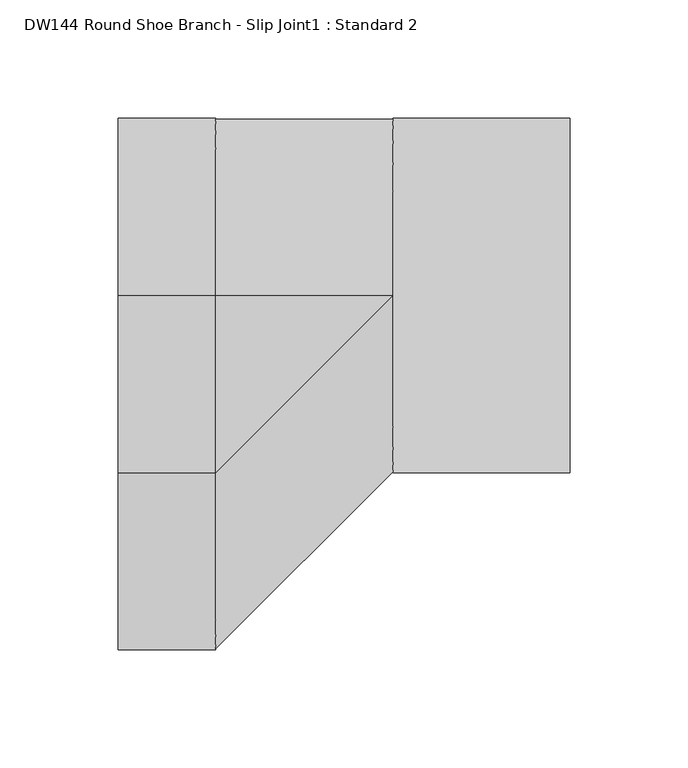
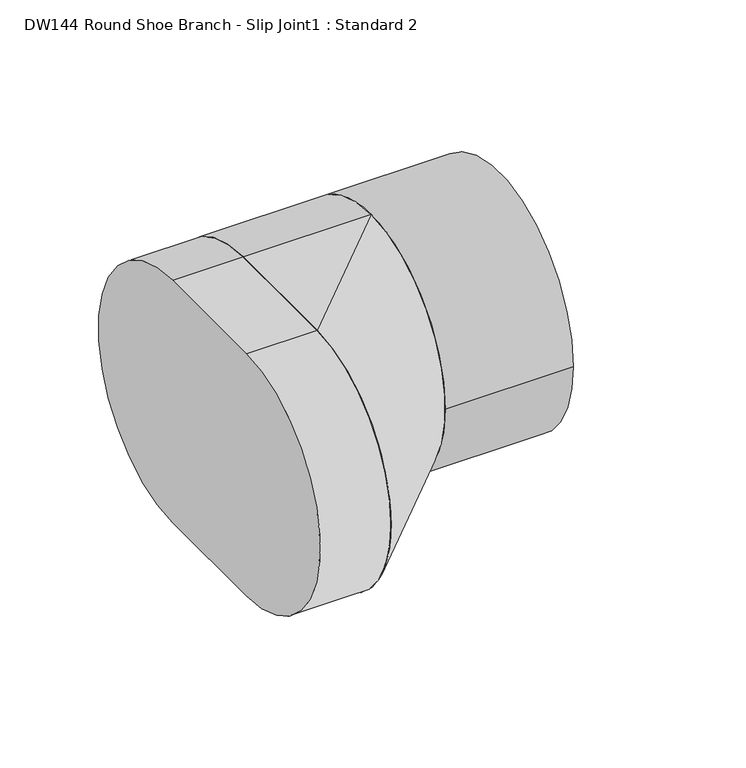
"""IFC4 building model written with IfcOpenShell, lengths in millimetres: duct fitting geometry, DW144 Round Shoe Branch - Slip Joint1 : Standard 2."""

from ifc_helpers import new_model, si_unit, point, frame, frame_2d, origin, origin_2d, place, context, project, spatial, polyline, circle_curve, trimmed, segment, composite_curve, outline, extrude, source, transform, mapped, element, save
from ifc_brep_helpers import plane_surface, cylinder_surface, extruded_surface, advanced_brep


def dw144_round_shoe_branch_slip_joint1_standard_2_5e7ec79a(model_context):
    return source(origin(), model_context, "Body", "SolidModel", [
        extrude(outline(composite_curve([segment(trimmed(circle_curve(origin_2d(), 75.0), [point((-75.0, 0.0))], [point((75.0, 0.0))], False, "CARTESIAN"), True, "CONTINUOUS"), segment(trimmed(circle_curve(origin_2d(), 75.0), [point((75.0, 0.0))], [point((-75.0, 0.0))], False, "CARTESIAN"), True, "CONTINUOUS")], self_intersect=False)), frame((75.0, 0.0, 0.0), z_axis=(1.0, 0.0, 0.0), x_axis=(0.0, 1.0, 0.0)), (0.0, 0.0, 1.0), 75.0),
        advanced_brep(
        [(75.0, 0.0, -75.0), (75.0, 0.0, 75.0), (0.0, 0.0, -75.0), (0.0, -75.0, -75.0), (0.0, -75.0, 75.0), (0.0, 0.0, 75.0)],
        [
            (0, 1, circle_curve(frame((75.0, 0.0, 0.0), z_axis=(1.0, 0.0, 0.0), x_axis=(0.0, 1.0, 0.0)), 75.0)),
            (1, 0, circle_curve(frame((75.0, 0.0, 0.0), z_axis=(1.0, 0.0, 0.0), x_axis=(0.0, 1.0, 0.0)), 75.0)),
            (2, 3),
            (3, 4, circle_curve(frame((0.0, -75.0, 0.0), z_axis=(-1.0, 0.0, 0.0), x_axis=(0.0, 1.0, 0.0)), 75.0)),
            (4, 5),
            (5, 2, circle_curve(frame((0.0, 0.0, 0.0), z_axis=(-1.0, 0.0, 0.0), x_axis=(0.0, 1.0, 0.0)), 75.0)),
            (5, 1),
            (0, 2),
            (4, 1),
            (3, 0),
        ],
        [
            plane_surface(frame((75.0, 0.0, 0.0), z_axis=(1.0, 0.0, 0.0), x_axis=(0.0, 1.0, 0.0))),
            plane_surface(frame((0.0, -37.5, 0.0), z_axis=(-1.0, 0.0, 0.0), x_axis=(0.0, 1.0, 0.0))),
            cylinder_surface(frame((0.0, 0.0, 0.0), z_axis=(1.0, 0.0, 0.0), x_axis=(0.0, 1.0, 0.0)), 75.0),
            plane_surface(frame((0.0, -37.5, 75.0), z_axis=(0.0, 0.0, 1.0), x_axis=(0.0, -1.0, 0.0))),
            extruded_surface(trimmed(circle_curve(frame((0.0, -75.0, 0.0), z_axis=(1.0, 0.0, 0.0), x_axis=(0.0, 1.0, 0.0)), 75.0), [point((0.0, -75.0, 75.0))], [point((0.0, -75.0, -75.0))], True, "CARTESIAN"), (75.0, 75.0, 0.0), 106.06601717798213),
            plane_surface(frame((0.0, -37.5, -75.0), z_axis=(0.0, 0.0, -1.0), x_axis=(0.0, 1.0, 0.0))),
        ],
        [
            (0, [[1, 2]]),
            (1, [[3, 4, 5, 6]]),
            (2, [[-6, 7, -1, 8]]),
            (3, [[-5, 9, -7]]),
            (4, [[-4, 10, -2, -9]]),
            (5, [[-3, -8, -10]]),
        ],
    ),
        extrude(outline(composite_curve([segment(polyline([(0.0, -75.0), (-75.0, -75.0)]), True, "CONTINUOUS"), segment(trimmed(circle_curve(frame_2d((-75.0, 0.0)), 75.0), [point((-75.0, -75.0))], [point((-75.0, 75.0))], False, "CARTESIAN"), True, "CONTINUOUS"), segment(polyline([(-75.0, 75.0), (0.0, 75.0)]), True, "CONTINUOUS"), segment(trimmed(circle_curve(origin_2d(), 75.0), [point((0.0, 75.0))], [point((0.0, -75.0))], False, "CARTESIAN"), True, "CONTINUOUS")], self_intersect=False)), frame((-41.3777906, 0.0, 0.0), z_axis=(1.0, 0.0, 0.0), x_axis=(0.0, 1.0, 0.0)), (0.0, 0.0, 1.0), 41.3777906),
    ])


if __name__ == "__main__":
    model = new_model("IFC4")
    model_context = context("Model", 3, world=origin())
    ifc_project = project(units=[si_unit("LENGTHUNIT", "METRE", prefix="MILLI")], contexts=[model_context])
    site = spatial("IfcSite", under=ifc_project)
    building = spatial("IfcBuilding", under=site)
    placement = place(None, origin())
    dw144_round_shoe_branch_slip_joint1_standard_2_shape = dw144_round_shoe_branch_slip_joint1_standard_2_5e7ec79a(model_context)
    element("IfcDuctFitting", 1, ObjectType="DW144 Round Shoe Branch - Slip Joint1 : Standard 2", at=placement, inside=building, context=model_context, shape_type="MappedRepresentation", body=[
        mapped(dw144_round_shoe_branch_slip_joint1_standard_2_shape, transform((0.0, 0.0, 0.0), x_axis=(1.0, 0.0, 0.0), y_axis=(0.0, 1.0, 0.0), z_axis=(0.0, 0.0, 1.0))),
    ])
    save(model, "model.ifc")
